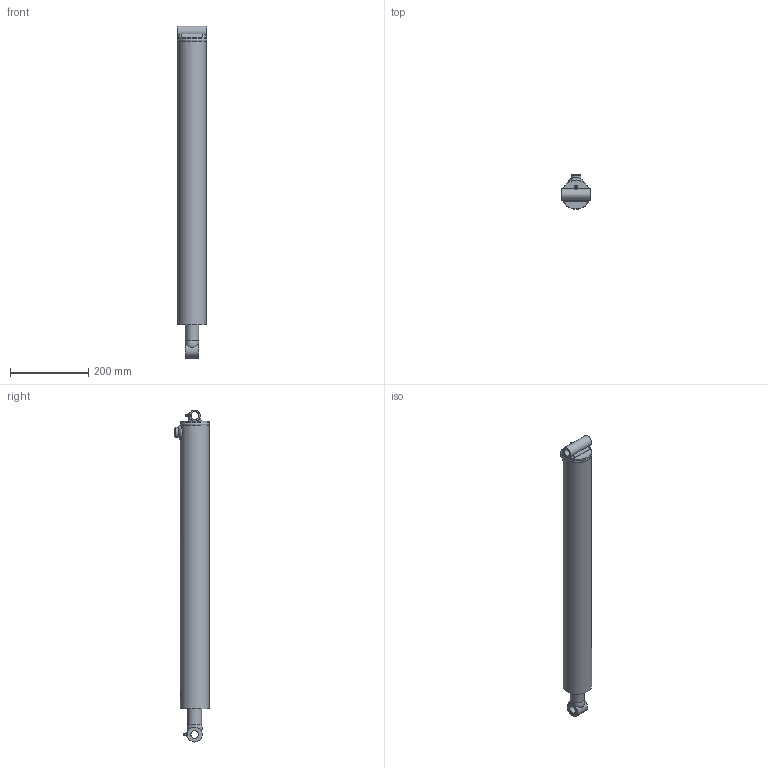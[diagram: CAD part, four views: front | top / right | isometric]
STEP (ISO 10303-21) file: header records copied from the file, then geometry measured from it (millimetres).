
FILE_DESCRIPTION((''),'2;1');
FILE_NAME('C:\Vault\Workspace\RefDataCylinders\Standards\PMC-5400\PMC-5424.stp','2010-11-03T07:35:42',('kneifld'),(''),'Autodesk Inventor 2010','Autodesk Inventor 2010','');
FILE_SCHEMA(('AUTOMOTIVE_DESIGN { 1 0 10303 214 1 1 1 1 }'));
Length unit declared in the file: inch
Products named in the file (19): PMC-5424; 061300049; 051300074; 161300005; 200014303; 210300144; B&TWeldVest; PortWeldVest; X-tube Weld; 081300356; 020700174; 010700667; 210300202; Rod Weld; 071300016; 220000208; 270010002; 270010020; 230001250
Assembly tree (18 placements, depth 3):
  PMC-5424
    061300049
      051300074
      161300005
      200014303
      210300144
      B&TWeldVest
      PortWeldVest
      X-tube Weld
    081300356
    020700174
      010700667
      210300202
      Rod Weld
    071300016
    220000208
    270010002
    270010020
    230001250
Bounding box: 76.2 x 87.97 x 846.12 mm (x, y, z)
Volume: 1743620.3 mm3; surface area: 495327.6 mm2
Topology: 16 solids, 16 shells, 198 faces, 415 edges, 259 vertices
Faces by surface type: plane 72, cylinder 53, cone 31, bspline 24, torus 16, sphere 2
Full cylindrical faces by diameter (mm): 1.524 x1, 2.794 x2, 6.074 x1, 9.525 x1, 18.999 x1, 19.126 x1, 19.558 x1, 19.837 x1, 19.844 x1, 21.615 x1, 25.4 x2, 28.575 x1, 34.925 x1, 35.001 x2, 38.1 x1, 38.71 x1, 41.275 x2, 42.85 x1, 48.768 x1, 54.051 x1, 54.864 x1, 56.032 x1, 58.725 x1, 63.017 x2, 63.246 x2, 63.271 x1, 63.5 x2, 65.088 x2, 67.259 x1, 73.025 x2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
Entity records: 6809 total; most frequent: CARTESIAN_POINT 2571, DIRECTION 815, ORIENTED_EDGE 598, AXIS2_PLACEMENT_3D 380, EDGE_LOOP 342, EDGE_CURVE 299, VERTEX_POINT 243, FACE_OUTER_BOUND 198
